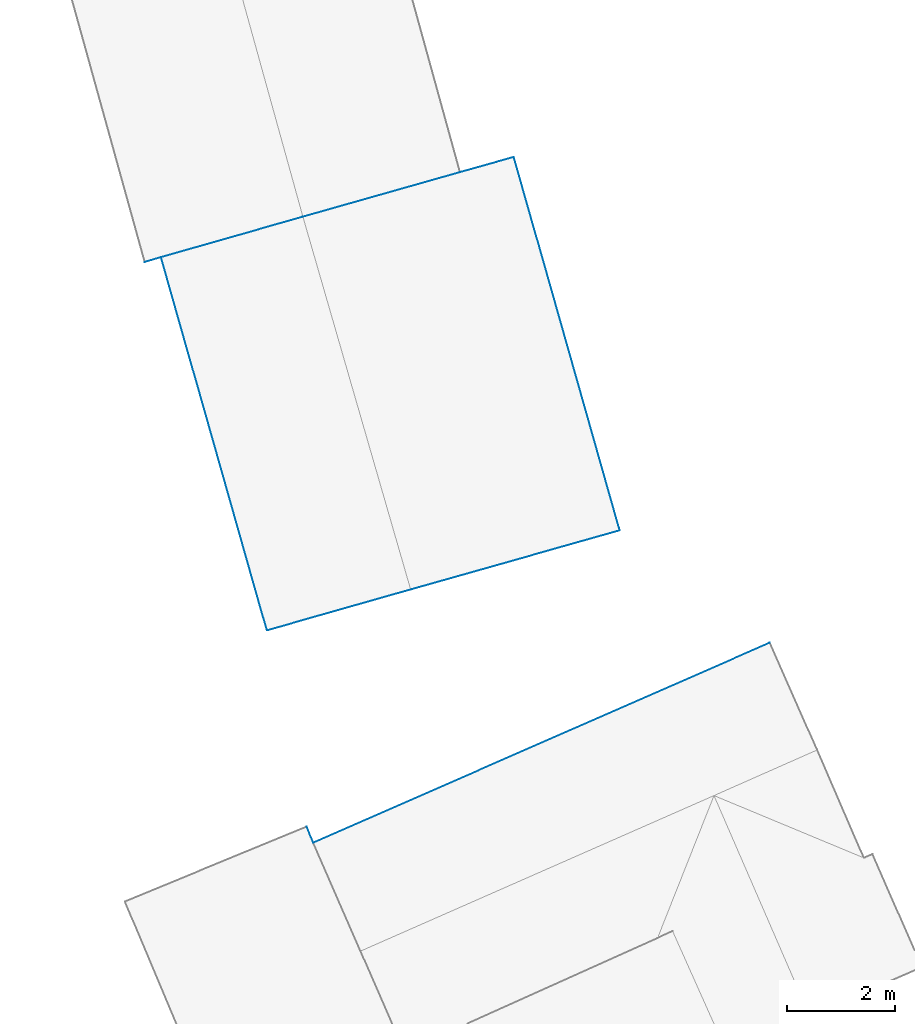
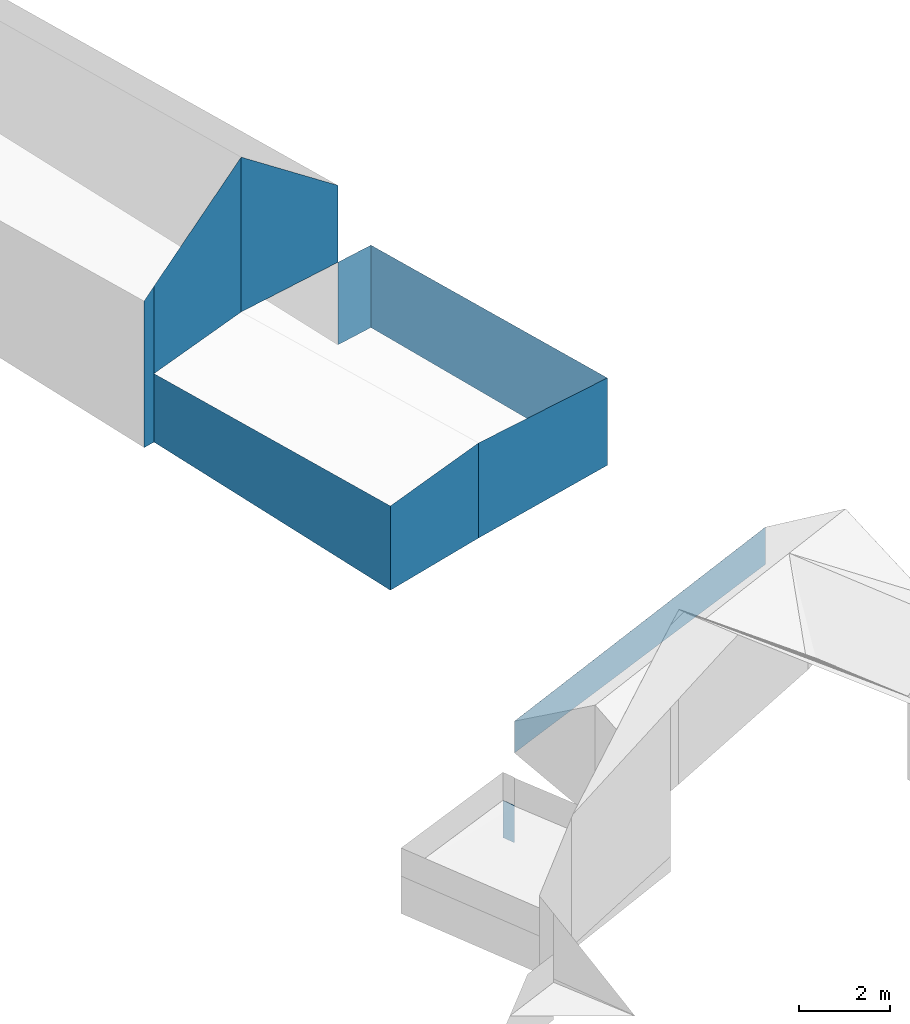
# Not in any storey, part 37 of 59: 10 walls.
"""IFC4 building model written with IfcOpenShell, lengths in metres."""

import ifcopenshell
import ifcopenshell.guid

model = None  # the IFC model being written
_history = None  # IfcOwnerHistory: only IFC2X3 demands one
_inside = {}  # id of a spatial element -> (the spatial element, [elements in it])
_under = {}  # id of a project, library or spatial element -> (it, [spatial elements below it])
_declared = {}  # id of a project -> (the project, [libraries it declares])
_typed = {}  # id of a type object -> (the type object, [elements of that type])
_made_of = {}  # id of a material, layer set ... -> (it, [elements and type objects made of it])


def new_model(schema):
    """Start an empty IFC model of exactly this schema.

    Asked for "IFC4X3", IfcOpenShell would pick the latest addendum, in which some entities
    have other attributes; the version numbers below select the first issue.
    IFC2X3 requires an IfcOwnerHistory on every rooted entity: one is made here for all.
    """
    global model, _history
    if schema == "IFC4X3":
        model = ifcopenshell.file(schema_version=(4, 3, 0, 0))
    else:
        model = ifcopenshell.file(schema=schema)
    _inside.clear()
    _under.clear()
    _declared.clear()
    _typed.clear()
    _made_of.clear()
    _history = None
    if model.schema == "IFC2X3":
        org = make("IfcOrganization", Name="unknown")
        user = make(
            "IfcPersonAndOrganization",
            ThePerson=make("IfcPerson", FamilyName="unknown"),
            TheOrganization=org,
        )
        app = make(
            "IfcApplication",
            ApplicationDeveloper=org,
            Version="unknown",
            ApplicationFullName="unknown",
            ApplicationIdentifier="unknown",
        )
        _history = make(
            "IfcOwnerHistory",
            OwningUser=user,
            OwningApplication=app,
            ChangeAction="ADDED",
            CreationDate=0,
        )
    return model


def make(cls, **values):
    """One entity of the class cls with the attributes given. An attribute that is None is left unset."""
    return model.create_entity(
        cls, **{name: value for name, value in values.items() if value is not None}
    )


def entity(cls, *values):
    """Any entity or typed value of the class cls, its attributes in the order of the schema. None: left unset."""
    e = model.create_entity(cls)
    for i, value in enumerate(values):
        if value is not None:
            e[i] = value
    return e


def rooted(cls, **values):
    """An entity with a GlobalId (a new one), such as an element, a storey or a relation."""
    return make(cls, GlobalId=ifcopenshell.guid.new(), OwnerHistory=_history, **values)


def si_unit(unit_type, name, prefix=None):
    """IfcSIUnit, for example si_unit("LENGTHUNIT", "METRE", prefix="MILLI")."""
    return make("IfcSIUnit", UnitType=unit_type, Prefix=prefix, Name=name)


def converted_unit(unit_type, name, factor, base, dimensions=None, offset=None):
    """IfcConversionBasedUnit, such as the inch: factor (a typed value) times the base unit."""
    return make(
        "IfcConversionBasedUnit"
        if offset is None
        else "IfcConversionBasedUnitWithOffset",
        ConversionOffset=offset,
        Dimensions=None
        if dimensions is None
        else entity("IfcDimensionalExponents", *dimensions),
        UnitType=unit_type,
        Name=name,
        ConversionFactor=make(
            "IfcMeasureWithUnit", ValueComponent=factor, UnitComponent=base
        ),
    )


def assignment(units):
    """IfcUnitAssignment: the units of a project."""
    return None if units is None else make("IfcUnitAssignment", Units=units)


def point(xyz):
    """IfcCartesianPoint."""
    return None if xyz is None else make("IfcCartesianPoint", Coordinates=xyz)


def direction(xyz):
    """IfcDirection."""
    return None if xyz is None else make("IfcDirection", DirectionRatios=xyz)


def frame(location, z_axis=None, x_axis=None):
    """IfcAxis2Placement3D, a coordinate frame: its origin and axes. An axis left out is left unset."""
    return make(
        "IfcAxis2Placement3D",
        Location=point(location),
        Axis=direction(z_axis),
        RefDirection=direction(x_axis),
    )


def origin():
    """The frame at (0, 0, 0) with its axes left unset."""
    return frame((0.0, 0.0, 0.0))


def place(relative_to, where):
    """IfcLocalPlacement: puts the frame where relative to a parent placement (None: the world)."""
    return make(
        "IfcLocalPlacement", PlacementRelTo=relative_to, RelativePlacement=where
    )


def context(
    kind, dimensions, precision=None, world=None, true_north=None, identifier=None
):
    """IfcGeometricRepresentationContext, for example the 3D "Model" context."""
    return make(
        "IfcGeometricRepresentationContext",
        ContextIdentifier=identifier,
        ContextType=kind,
        CoordinateSpaceDimension=dimensions,
        Precision=precision,
        WorldCoordinateSystem=world,
        TrueNorth=true_north,
    )


def subcontext(parent, identifier, kind, view, scale=None):
    """IfcGeometricRepresentationSubContext, for example "Body" below "Model"."""
    return make(
        "IfcGeometricRepresentationSubContext",
        ContextIdentifier=identifier,
        ContextType=kind,
        ParentContext=parent,
        TargetScale=scale,
        TargetView=view,
    )


def project(units=None, contexts=None):
    """IfcProject with its units and contexts."""
    return rooted(
        "IfcProject",
        Name="project",
        RepresentationContexts=contexts,
        UnitsInContext=assignment(units),
    )


def spatial(cls, under=None, at=None, **own):
    """A site, building, storey or space (cls), placed at a placement, below another one or the project."""
    s = rooted(cls, ObjectPlacement=at, **own)
    if under is not None:
        _under.setdefault(under.id(), (under, []))[1].append(s)
    return s


def faces_of(points, faces, orient=None, outer=None):
    """IfcFace entities. A face is a list of loops; a loop is a list of indices into points, from 0.

    orient and outer hold one flag for each loop. By default every Orientation is true, the
    first loop of a face is its IfcFaceOuterBound and the others are IfcFaceBound.
    """
    made = []
    for i, loops in enumerate(faces):
        bounds = []
        for j, loop in enumerate(loops):
            is_outer = j == 0 if outer is None else outer[i][j]
            bounds.append(
                make(
                    "IfcFaceOuterBound" if is_outer else "IfcFaceBound",
                    Bound=make("IfcPolyLoop", Polygon=[points[k] for k in loop]),
                    Orientation=True if orient is None else orient[i][j],
                )
            )
        made.append(make("IfcFace", Bounds=bounds))
    return made


def face_set(faces, orient=None, outer=None):
    """The faces of one IfcConnectedFaceSet. surface_model builds it on its shared points."""
    return ("IfcConnectedFaceSet", faces, orient, outer)


def surface_model(cls, points, shells):
    """IfcFaceBasedSurfaceModel or IfcShellBasedSurfaceModel (cls): surfaces that need not close."""
    shared = [point(p) for p in points]
    made = [make(c, CfsFaces=faces_of(shared, fs, o, b)) for c, fs, o, b in shells]
    if cls == "IfcFaceBasedSurfaceModel":
        return make(cls, FbsmFaces=made)
    return make(cls, SbsmBoundary=made)


def shape(context_of_items, identifier, shape_type, items):
    """IfcShapeRepresentation: the items that make up one representation, for example the "Body"."""
    return make(
        "IfcShapeRepresentation",
        ContextOfItems=context_of_items,
        RepresentationIdentifier=identifier,
        RepresentationType=shape_type,
        Items=items,
    )


def made_of(thing, what):
    """Note that an element or type object is made of a material, layer set ...; save() writes the relation."""
    if what is not None:
        _made_of.setdefault(what.id(), (what, []))[1].append(thing)
    return thing


def element(
    cls,
    number,
    at=None,
    inside=None,
    cuts=None,
    type_object=None,
    material=None,
    context=None,
    identifier="Body",
    shape_type=None,
    held_by="IfcProductDefinitionShape",
    body=None,
    shapes=None,
    **own,
):
    """One element of the class cls, such as IfcWall. Its Tag is "e" and its number.

    at: its placement. inside: the storey or other place that contains it. cuts: it is an
    opening in that element (IfcRelVoidsElement). A single representation is given by context,
    identifier, shape_type and body (its items); several are given by shapes. held_by: the class
    of the entity that holds the representations. save() writes the other relations.
    """
    e = rooted(cls, Tag="e%d" % number, ObjectPlacement=at, **own)
    if body is not None:
        shapes = [shape(context, identifier, shape_type, body)]
    if shapes is not None:
        e.Representation = make(held_by, Representations=shapes)
    if inside is not None:
        _inside.setdefault(inside.id(), (inside, []))[1].append(e)
    if cuts is not None:
        rooted(
            "IfcRelVoidsElement", RelatingBuildingElement=cuts, RelatedOpeningElement=e
        )
    if type_object is not None:
        _typed.setdefault(type_object.id(), (type_object, []))[1].append(e)
    return made_of(e, material)


def aggregate(whole, parts):
    """IfcRelAggregates: a whole, such as a stair, and the parts it consists of."""
    return rooted("IfcRelAggregates", RelatingObject=whole, RelatedObjects=parts)


def save(model, path):
    """Write the relations noted so far, then the file.

    IfcRelAggregates (storeys below a building ...), IfcRelContainedInSpatialStructure (elements
    in a storey), IfcRelDefinesByType, IfcRelAssociatesMaterial and IfcRelDeclares: one each for
    every whole, place, type object, material and project.
    """
    for whole, parts in _under.values():
        aggregate(whole, parts)
    for where, things in _inside.values():
        rooted(
            "IfcRelContainedInSpatialStructure",
            RelatedElements=things,
            RelatingStructure=where,
        )
    for kind, things in _typed.values():
        rooted("IfcRelDefinesByType", RelatedObjects=things, RelatingType=kind)
    for what, things in _made_of.values():
        rooted("IfcRelAssociatesMaterial", RelatedObjects=things, RelatingMaterial=what)
    for by, libraries in _declared.values():
        rooted("IfcRelDeclares", RelatingContext=by, RelatedDefinitions=libraries)
    model.write(path)


model = new_model("IFC4")

# Units and contexts
model_context = context("Model", 3, precision=1e-05, world=origin())
body_context = subcontext(model_context, "Body", "Model", "MODEL_VIEW")
ifc_project = project(units=[converted_unit("PLANEANGLEUNIT", "DEGREE", entity("IfcRatioMeasure", 0.0174532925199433), si_unit("PLANEANGLEUNIT", "RADIAN"), dimensions=[0, 0, 0, 0, 0, 0, 0]), si_unit("AREAUNIT", "SQUARE_METRE"), si_unit("LENGTHUNIT", "METRE")], contexts=[model_context])

# Site, building
site_placement = place(None, origin())
site = spatial("IfcSite", under=ifc_project, at=site_placement, Name="_site")
building_1_placement = place(site_placement, origin())
building_1 = spatial("IfcBuilding", under=site, at=building_1_placement, Name="_building")

# Walls
wall_1_placement = place(building_1_placement, origin())
element("IfcWall", 1, at=wall_1_placement, inside=building_1, Name="Wall", PredefinedType="NOTDEFINED", context=body_context, shape_type="SurfaceModel", body=[
    surface_model("IfcFaceBasedSurfaceModel", [(231.43, 235.881, 218.74), (239.92, 239.6, 218.7), (239.92, 239.6, 217.7), (231.43, 235.881, 217.89)], [face_set([[[0, 1, 2, 3]]])]),
])
wall_2_placement = place(building_1_placement, origin())
element("IfcWall", 2, at=wall_2_placement, inside=building_1, Name="Wall", PredefinedType="NOTDEFINED", context=body_context, shape_type="SurfaceModel", body=[
    surface_model("IfcFaceBasedSurfaceModel", [(231.31, 236.18, 216.486), (231.43, 235.881, 216.486), (231.43, 235.881, 215.486), (231.31, 236.18, 215.486)], [face_set([[[0, 1, 2, 3]]])]),
])

# Building
building_2_placement = place(site_placement, origin())
building_2 = spatial("IfcBuilding", under=site, at=building_2_placement, Name="_building")

# Walls
wall_3_placement = place(building_2_placement, origin())
element("IfcWall", 3, at=wall_3_placement, inside=building_2, Name="Wall", PredefinedType="NOTDEFINED", context=body_context, shape_type="SurfaceModel", body=[
    surface_model("IfcFaceBasedSurfaceModel", [(234.16, 248.35, 224.55), (231.237, 247.52, 226.83), (231.237, 247.52, 222.69), (234.16, 248.35, 222.49)], [face_set([[[0, 1, 2, 3]]])]),
])
wall_4_placement = place(building_2_placement, origin())
element("IfcWall", 4, at=wall_4_placement, inside=building_2, Name="Wall", PredefinedType="NOTDEFINED", context=body_context, shape_type="SurfaceModel", body=[
    surface_model("IfcFaceBasedSurfaceModel", [(231.237, 247.52, 226.83), (228.6, 246.77, 224.76), (228.6, 246.77, 222.42), (231.237, 247.52, 222.69)], [face_set([[[0, 1, 2, 3]]])]),
])
wall_5_placement = place(building_2_placement, origin())
element("IfcWall", 5, at=wall_5_placement, inside=building_2, Name="Wall", PredefinedType="NOTDEFINED", context=body_context, shape_type="SurfaceModel", body=[
    surface_model("IfcFaceBasedSurfaceModel", [(228.6, 246.77, 224.76), (228.3, 246.68, 224.52), (228.3, 246.68, 220.601), (228.6, 246.77, 220.588)], [face_set([[[0, 1, 2, 3]]])]),
])
wall_6_placement = place(building_2_placement, origin())
element("IfcWall", 6, at=wall_6_placement, inside=building_2, Name="Wall", PredefinedType="NOTDEFINED", context=body_context, shape_type="SurfaceModel", body=[
    surface_model("IfcFaceBasedSurfaceModel", [(233.24, 240.59, 222.69), (230.57, 239.83, 222.4), (230.57, 239.83, 220.146), (233.24, 240.59, 220.148)], [face_set([[[0, 1, 2, 3]]])]),
])
wall_7_placement = place(building_2_placement, origin())
element("IfcWall", 7, at=wall_7_placement, inside=building_2, Name="Wall", PredefinedType="NOTDEFINED", context=body_context, shape_type="SurfaceModel", body=[
    surface_model("IfcFaceBasedSurfaceModel", [(237.13, 241.689, 222.4), (233.24, 240.59, 222.69), (233.24, 240.59, 220.148), (237.13, 241.689, 220.063)], [face_set([[[0, 1, 2, 3]]])]),
])
wall_8_placement = place(building_2_placement, origin())
element("IfcWall", 8, at=wall_8_placement, inside=building_2, Name="Wall", PredefinedType="NOTDEFINED", context=body_context, shape_type="SurfaceModel", body=[
    surface_model("IfcFaceBasedSurfaceModel", [(234.16, 248.35, 222.49), (235.16, 248.631, 222.43), (235.16, 248.631, 220.226), (234.16, 248.35, 220.281)], [face_set([[[0, 1, 2, 3]]])]),
])
wall_9_placement = place(building_2_placement, origin())
element("IfcWall", 9, at=wall_9_placement, inside=building_2, Name="Wall", PredefinedType="NOTDEFINED", context=body_context, shape_type="SurfaceModel", body=[
    surface_model("IfcFaceBasedSurfaceModel", [(230.57, 239.83, 222.4), (228.6, 246.77, 222.42), (228.6, 246.77, 220.588), (230.57, 239.83, 220.146)], [face_set([[[0, 1, 2, 3]]])]),
])
wall_10_placement = place(building_2_placement, origin())
element("IfcWall", 10, at=wall_10_placement, inside=building_2, Name="Wall", PredefinedType="NOTDEFINED", context=body_context, shape_type="SurfaceModel", body=[
    surface_model("IfcFaceBasedSurfaceModel", [(235.16, 248.631, 222.43), (237.13, 241.689, 222.4), (237.13, 241.689, 220.063), (235.16, 248.631, 220.226)], [face_set([[[0, 1, 2, 3]]])]),
])

save(model, "model.ifc")
